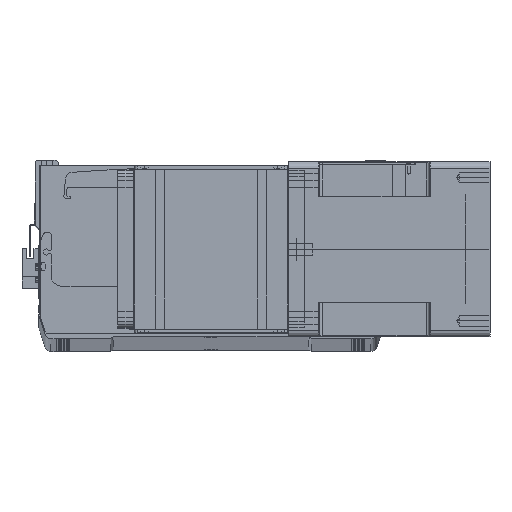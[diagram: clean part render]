
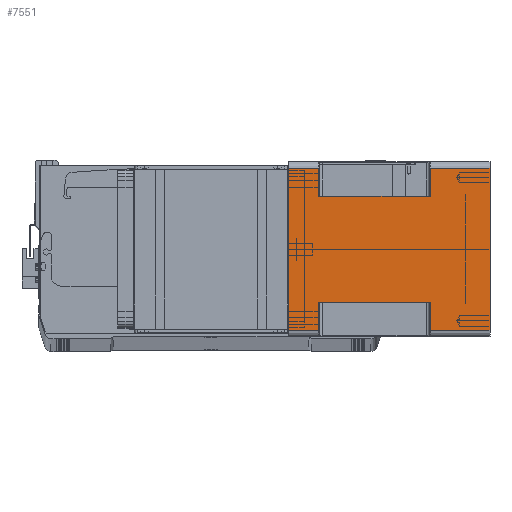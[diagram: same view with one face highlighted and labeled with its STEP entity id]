
A CAD part, top view. The second image highlights one B-rep face of the part: STEP entity #7551.
In plain terms, the highlighted planar face has unit normal (0, 0, 1) as drawn and (1, 0, 0) by its records, which use the part's own axes.
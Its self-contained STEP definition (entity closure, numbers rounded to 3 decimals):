
#135 = CARTESIAN_POINT ( 'NONE',  ( 71., 43., -115.5 ) ) ;
#711 = DIRECTION ( 'NONE',  ( 1., 0., 0. ) ) ;
#1364 = VECTOR ( 'NONE', #20814, 1000. ) ;
#1957 = ORIENTED_EDGE ( 'NONE', *, *, #15063, .F. ) ;
#2274 = ORIENTED_EDGE ( 'NONE', *, *, #4654, .T. ) ;
#2380 = CARTESIAN_POINT ( 'NONE',  ( 71., -66., -24.5 ) ) ;
#2510 = DIRECTION ( 'NONE',  ( 0., 1., 0. ) ) ;
#2711 = LINE ( 'NONE', #20830, #36515 ) ;
#4166 = VECTOR ( 'NONE', #9110, 1000. ) ;
#4654 = EDGE_CURVE ( 'NONE', #9127, #16714, #23936, .T. ) ;
#4750 = CARTESIAN_POINT ( 'NONE',  ( 71., -66., -24.5 ) ) ;
#5063 = VERTEX_POINT ( 'NONE', #8571 ) ;
#5567 = VERTEX_POINT ( 'NONE', #34808 ) ;
#5922 = EDGE_CURVE ( 'NONE', #40195, #21816, #7148, .T. ) ;
#6131 = CARTESIAN_POINT ( 'NONE',  ( 71., -43., -164. ) ) ;
#6374 = EDGE_CURVE ( 'NONE', #34066, #30926, #10209, .T. ) ;
#6733 = ORIENTED_EDGE ( 'NONE', *, *, #20202, .T. ) ;
#6900 = CARTESIAN_POINT ( 'NONE',  ( 71., -66., -164. ) ) ;
#6999 = ORIENTED_EDGE ( 'NONE', *, *, #5922, .F. ) ;
#7148 = LINE ( 'NONE', #11627, #39954 ) ;
#7551 = ADVANCED_FACE ( 'NONE', ( #7984 ), #23060, .T. ) ;
#7588 = EDGE_CURVE ( 'NONE', #16449, #30926, #12112, .T. ) ;
#7879 = DIRECTION ( 'NONE',  ( 0., 0., 1. ) ) ;
#7984 = FACE_OUTER_BOUND ( 'NONE', #19881, .T. ) ;
#7994 = VECTOR ( 'NONE', #22306, 1000. ) ;
#8178 = CARTESIAN_POINT ( 'NONE',  ( 71., 66., -164. ) ) ;
#8571 = CARTESIAN_POINT ( 'NONE',  ( 71., 66., 0. ) ) ;
#8661 = LINE ( 'NONE', #8178, #30206 ) ;
#9110 = DIRECTION ( 'NONE',  ( 0., -1., 0. ) ) ;
#9127 = VERTEX_POINT ( 'NONE', #2380 ) ;
#9756 = AXIS2_PLACEMENT_3D ( 'NONE', #29845, #711, #17313 ) ;
#10209 = LINE ( 'NONE', #15657, #26606 ) ;
#11627 = CARTESIAN_POINT ( 'NONE',  ( 71., -66., -164. ) ) ;
#12112 = LINE ( 'NONE', #135, #22833 ) ;
#12622 = VECTOR ( 'NONE', #30549, 1000. ) ;
#12735 = ORIENTED_EDGE ( 'NONE', *, *, #32914, .T. ) ;
#13102 = VERTEX_POINT ( 'NONE', #37487 ) ;
#13507 = ORIENTED_EDGE ( 'NONE', *, *, #6374, .F. ) ;
#14188 = LINE ( 'NONE', #30948, #14675 ) ;
#14204 = LINE ( 'NONE', #15517, #30601 ) ;
#14658 = CARTESIAN_POINT ( 'NONE',  ( 71., 66., -164. ) ) ;
#14675 = VECTOR ( 'NONE', #7879, 1000. ) ;
#15063 = EDGE_CURVE ( 'NONE', #13102, #16714, #30051, .T. ) ;
#15517 = CARTESIAN_POINT ( 'NONE',  ( 71., -66., -164. ) ) ;
#15518 = CARTESIAN_POINT ( 'NONE',  ( 71., 43., -115.5 ) ) ;
#15657 = CARTESIAN_POINT ( 'NONE',  ( 71., 43., -164. ) ) ;
#15777 = EDGE_CURVE ( 'NONE', #9127, #5567, #25333, .T. ) ;
#16449 = VERTEX_POINT ( 'NONE', #21210 ) ;
#16714 = VERTEX_POINT ( 'NONE', #32109 ) ;
#17313 = DIRECTION ( 'NONE',  ( 0., 1., 0. ) ) ;
#18112 = VECTOR ( 'NONE', #29712, 1000. ) ;
#19478 = EDGE_CURVE ( 'NONE', #13102, #21816, #39515, .T. ) ;
#19881 = EDGE_LOOP ( 'NONE', ( #1957, #35944, #6999, #12735, #24207, #32015, #13507, #36858, #6733, #39268, #28418, #2274 ) ) ;
#20202 = EDGE_CURVE ( 'NONE', #36292, #5063, #8661, .T. ) ;
#20814 = DIRECTION ( 'NONE',  ( 0., 1., 0. ) ) ;
#20830 = CARTESIAN_POINT ( 'NONE',  ( 71., -66., 0. ) ) ;
#21034 = CARTESIAN_POINT ( 'NONE',  ( 71., -66., -164. ) ) ;
#21210 = CARTESIAN_POINT ( 'NONE',  ( 71., 66., -115.5 ) ) ;
#21217 = VERTEX_POINT ( 'NONE', #14658 ) ;
#21482 = EDGE_CURVE ( 'NONE', #21217, #16449, #14188, .T. ) ;
#21816 = VERTEX_POINT ( 'NONE', #39064 ) ;
#22306 = DIRECTION ( 'NONE',  ( 0., 0., 1. ) ) ;
#22833 = VECTOR ( 'NONE', #39278, 1000. ) ;
#23060 = PLANE ( 'NONE',  #9756 ) ;
#23936 = LINE ( 'NONE', #24001, #1364 ) ;
#24001 = CARTESIAN_POINT ( 'NONE',  ( 71., -43., -24.5 ) ) ;
#24207 = ORIENTED_EDGE ( 'NONE', *, *, #21482, .T. ) ;
#24622 = DIRECTION ( 'NONE',  ( 0., 0., 1. ) ) ;
#25333 = LINE ( 'NONE', #6900, #18112 ) ;
#26606 = VECTOR ( 'NONE', #38552, 1000. ) ;
#27914 = DIRECTION ( 'NONE',  ( 0., 1., 0. ) ) ;
#28418 = ORIENTED_EDGE ( 'NONE', *, *, #15777, .F. ) ;
#28620 = CARTESIAN_POINT ( 'NONE',  ( 71., 43., -24.5 ) ) ;
#29550 = LINE ( 'NONE', #4750, #12622 ) ;
#29712 = DIRECTION ( 'NONE',  ( 0., 0., 1. ) ) ;
#29845 = CARTESIAN_POINT ( 'NONE',  ( 71., -66., -164. ) ) ;
#30051 = LINE ( 'NONE', #6131, #7994 ) ;
#30206 = VECTOR ( 'NONE', #36288, 1000. ) ;
#30235 = EDGE_CURVE ( 'NONE', #34066, #36292, #29550, .T. ) ;
#30549 = DIRECTION ( 'NONE',  ( 0., 1., 0. ) ) ;
#30601 = VECTOR ( 'NONE', #2510, 1000. ) ;
#30926 = VERTEX_POINT ( 'NONE', #15518 ) ;
#30948 = CARTESIAN_POINT ( 'NONE',  ( 71., 66., -164. ) ) ;
#31729 = CARTESIAN_POINT ( 'NONE',  ( 71., -66., -115.5 ) ) ;
#32015 = ORIENTED_EDGE ( 'NONE', *, *, #7588, .T. ) ;
#32109 = CARTESIAN_POINT ( 'NONE',  ( 71., -43., -24.5 ) ) ;
#32914 = EDGE_CURVE ( 'NONE', #40195, #21217, #14204, .T. ) ;
#34066 = VERTEX_POINT ( 'NONE', #28620 ) ;
#34808 = CARTESIAN_POINT ( 'NONE',  ( 71., -66., 0. ) ) ;
#34898 = EDGE_CURVE ( 'NONE', #5567, #5063, #2711, .T. ) ;
#35944 = ORIENTED_EDGE ( 'NONE', *, *, #19478, .T. ) ;
#36288 = DIRECTION ( 'NONE',  ( 0., 0., 1. ) ) ;
#36292 = VERTEX_POINT ( 'NONE', #36509 ) ;
#36509 = CARTESIAN_POINT ( 'NONE',  ( 71., 66., -24.5 ) ) ;
#36515 = VECTOR ( 'NONE', #27914, 1000. ) ;
#36858 = ORIENTED_EDGE ( 'NONE', *, *, #30235, .T. ) ;
#37487 = CARTESIAN_POINT ( 'NONE',  ( 71., -43., -115.5 ) ) ;
#38552 = DIRECTION ( 'NONE',  ( 0., 0., -1. ) ) ;
#39064 = CARTESIAN_POINT ( 'NONE',  ( 71., -66., -115.5 ) ) ;
#39268 = ORIENTED_EDGE ( 'NONE', *, *, #34898, .F. ) ;
#39278 = DIRECTION ( 'NONE',  ( 0., -1., 0. ) ) ;
#39515 = LINE ( 'NONE', #31729, #4166 ) ;
#39954 = VECTOR ( 'NONE', #24622, 1000. ) ;
#40195 = VERTEX_POINT ( 'NONE', #21034 ) ;
